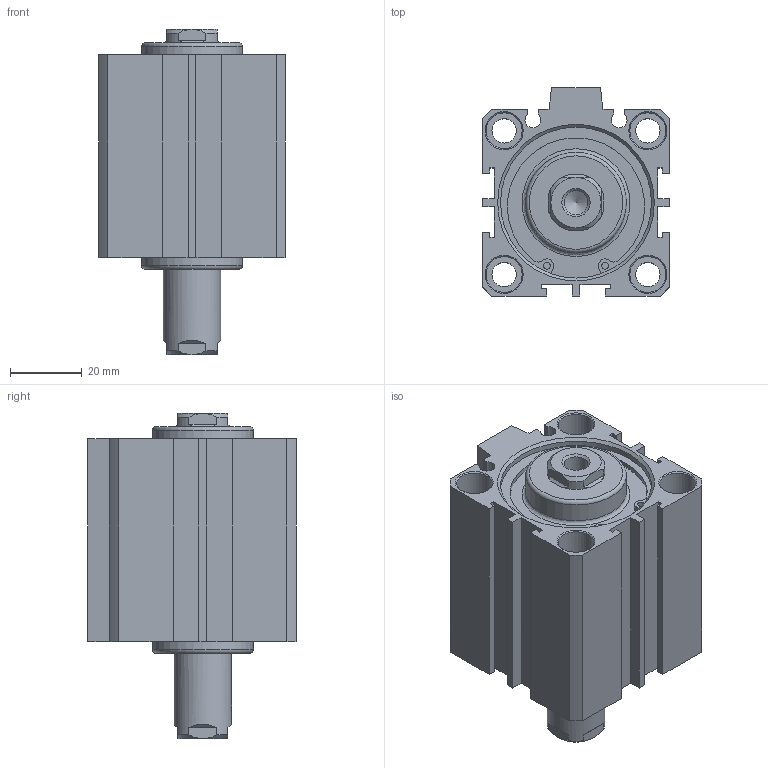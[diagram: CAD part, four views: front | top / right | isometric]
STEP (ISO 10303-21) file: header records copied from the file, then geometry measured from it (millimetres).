
FILE_DESCRIPTION((''),'2;1');
FILE_NAME('I:\3D電子目錄\氣缸\JDD\JDD-S\JDD40-S\JDD40x20-S.stp','2007-02-09T08:32:44',('662F206'),(''),'Autodesk Inventor 10','Autodesk Inventor 10','');
FILE_SCHEMA(('AUTOMOTIVE_DESIGN { 1 0 10303 214 1 1 1 1 }'));
Length unit declared in the file: millimetre
Products named in the file (3): JDD40-S; R 形環 42
Assembly tree (3 placements, depth 2):
  JDD40-S
    JDD40-S
    R 形環 42  x2
Bounding box: 52 x 58 x 90.5 mm (x, y, z)
Volume: 136710.2 mm3; surface area: 34432.7 mm2
Topology: 3 solids, 3 shells, 179 faces, 431 edges, 280 vertices
Faces by surface type: plane 98, cylinder 49, cone 24, bspline 6, torus 2
Full cylindrical faces by diameter (mm): 1.9 x4, 2.2 x2, 6.8 x4, 10 x8, 16 x1, 28 x2, 42 x4, 44.5 x2
Entity records: 4755 total; most frequent: CARTESIAN_POINT 955, DIRECTION 792, ORIENTED_EDGE 686, EDGE_CURVE 343, AXIS2_PLACEMENT_3D 298, VERTEX_POINT 251, EDGE_LOOP 250, VECTOR 196
